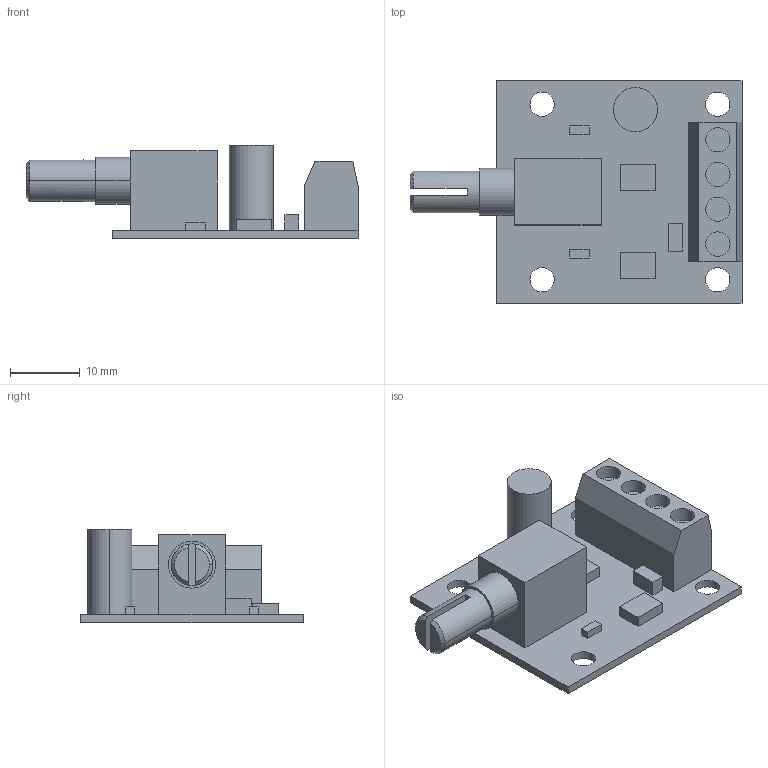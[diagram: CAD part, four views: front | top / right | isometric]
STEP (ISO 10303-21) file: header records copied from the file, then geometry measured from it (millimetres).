
FILE_DESCRIPTION(('CATIA V5 STEP Exchange'),'2;1');
FILE_NAME('X:\XDrive\---CAD---\--- Elektronik ---\PWM-Modul_1803BK.stp','2022-12-20T16:15:34+00:00',('none'),('none'),'CATIA Version 5 Release 19 SP 2 (IN-10)','CATIA V5 STEP AP203','none');
FILE_SCHEMA(('CONFIG_CONTROL_DESIGN'));
Length unit declared in the file: millimetre
Products named in the file (1): PWM-Modul_1803BK
Bounding box: 47.75 x 32 x 13.5 mm (x, y, z)
Volume: 4871.2 mm3; surface area: 5065.6 mm2
Topology: 10 solids, 10 shells, 109 faces, 238 edges, 158 vertices
Faces by surface type: plane 83, cylinder 22, cone 4
Entity records: 2790 total; most frequent: CARTESIAN_POINT 484, ORIENTED_EDGE 476, DIRECTION 384, EDGE_CURVE 238, VECTOR 182, LINE 182, VERTEX_POINT 158, AXIS2_PLACEMENT_3D 128
